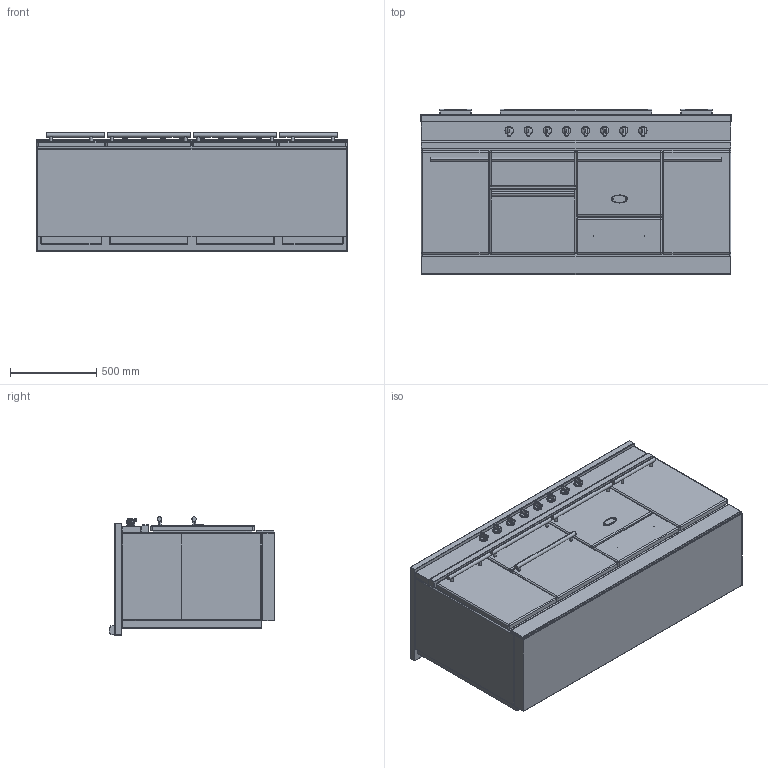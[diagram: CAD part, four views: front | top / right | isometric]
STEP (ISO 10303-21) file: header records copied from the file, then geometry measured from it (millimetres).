
FILE_DESCRIPTION((''),'2;1');
FILE_NAME('LMVI1853_ASM','2022-04-13T11:20:35',('stagiaire'),(''),'CREO PARAMETRIC BY PTC INC, 2021424','CREO PARAMETRIC BY PTC INC, 2021424','');
FILE_SCHEMA(('AP203_CONFIGURATION_CONTROLLED_3D_DESIGN_OF_MECHANICAL_PARTS_AND_ASSEMBLIES_MIM_LF { 1 0 10303 403 2 1 2 }'));
Products named in the file (13): BASE_EXPORT_CHAGNY_1800_MODERN; 65049009; 65650001; 65064012; 19150009; 88064012_ASM; BASE_EXPORT_CHAGNY_1800_MODERN_ASM; TABLE_1805_INDUCTION; 65052013; CHEMINEE_2020_LG182_EXPORT_STEP; CHEMINEE_2020_LG882_EXPORT_STEP; TABLE_1805_INDUCTION_ASM; LMVI1853_ASM
Assembly tree (20 placements, depth 4):
  LMVI1853_ASM
    BASE_EXPORT_CHAGNY_1800_MODERN_ASM
      BASE_EXPORT_CHAGNY_1800_MODERN
      65049009
      65650001
      88064012_ASM  x8
        65064012
        19150009
    TABLE_1805_INDUCTION_ASM
      TABLE_1805_INDUCTION
      65052013
      CHEMINEE_2020_LG182_EXPORT_STEP  x2
      CHEMINEE_2020_LG882_EXPORT_STEP
Bounding box: 1805 x 963 x 687.75 mm (x, y, z)
Volume: 664668465.4 mm3; surface area: 15860761.9 mm2
Topology: 28 solids, 28 shells, 3811 faces, 10992 edges, 7014 vertices
Faces by surface type: plane 1644, cylinder 1453, sphere 298, bspline 276, torus 100, cone 38, extrusion 2
Entity records: 106502 total; most frequent: CARTESIAN_POINT 25620, ORIENTED_EDGE 14750, DIRECTION 14358, EDGE_CURVE 7375, VECTOR 5552, LINE 5550, VERTEX_POINT 4753, AXIS2_PLACEMENT_3D 4385
